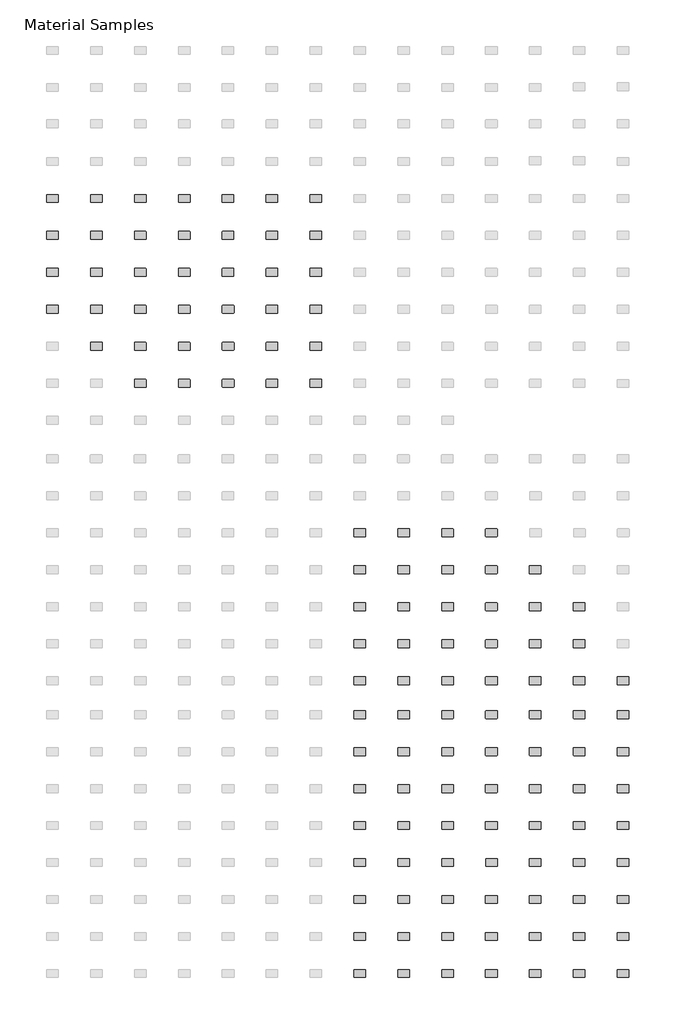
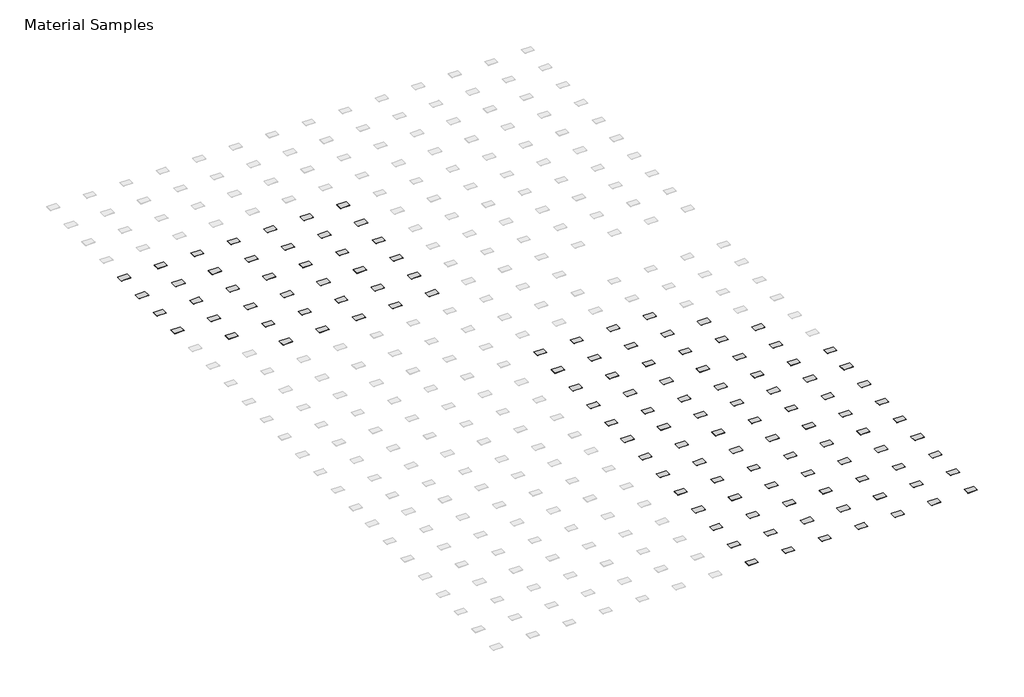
# One storey, part 2 of 3: 123 furniture elements.
"""IFC4 building model written with IfcOpenShell, lengths in millimetres."""

from ifc_helpers import new_model, si_unit, origin, place, context, project, spatial, transform, mapped, element, save
from components import furniture_2008_material_sample3_2x3x1_8_96bf408c

model = new_model("IFC4")

# Units and contexts
model_context = context("Model", 3, world=origin())
ifc_project = project(units=[si_unit("LENGTHUNIT", "METRE", prefix="MILLI")], contexts=[model_context])

# Site, building, storey
site = spatial("IfcSite", under=ifc_project)
building = spatial("IfcBuilding", under=site)
storey = spatial("IfcBuildingStorey", under=building, Name="Material Samples", Elevation=0.0)

# Furniture
placement = place(None, origin())
furniture_2008_material_sample3_2x3x1_8_shape = furniture_2008_material_sample3_2x3x1_8_96bf408c(model_context)
element("IfcFurniture", 1, ObjectType="2008_Material Sample3 : 2x3x1/8", at=placement, inside=storey, context=model_context, shape_type="MappedRepresentation", body=[
    mapped(furniture_2008_material_sample3_2x3x1_8_shape, transform((-41929.8143121, -1028.6275291, 25.4), x_axis=(1.0, 0.0, 0.0), y_axis=(0.0, 1.0, 0.0), z_axis=(0.0, 0.0, 1.0))),
])
element("IfcFurniture", 2, ObjectType="2008_Material Sample3 : 2x3x1/8", at=placement, inside=storey, context=model_context, shape_type="MappedRepresentation", body=[
    mapped(furniture_2008_material_sample3_2x3x1_8_shape, transform((-40482.0057904, -1028.6275291, 25.4), x_axis=(1.0, 0.0, 0.0), y_axis=(0.0, 1.0, 0.0), z_axis=(0.0, 0.0, 1.0))),
])
element("IfcFurniture", 3, ObjectType="2008_Material Sample3 : 2x3x1/8", at=placement, inside=storey, context=model_context, shape_type="MappedRepresentation", body=[
    mapped(furniture_2008_material_sample3_2x3x1_8_shape, transform((-39034.1972688, -1028.6275291, 25.4), x_axis=(1.0, 0.0, 0.0), y_axis=(0.0, 1.0, 0.0), z_axis=(0.0, 0.0, 1.0))),
])
element("IfcFurniture", 4, ObjectType="2008_Material Sample3 : 2x3x1/8", at=placement, inside=storey, context=model_context, shape_type="MappedRepresentation", body=[
    mapped(furniture_2008_material_sample3_2x3x1_8_shape, transform((-37586.3887471, -1028.6275291, 25.4), x_axis=(1.0, 0.0, 0.0), y_axis=(0.0, 1.0, 0.0), z_axis=(0.0, 0.0, 1.0))),
])
element("IfcFurniture", 5, ObjectType="2008_Material Sample3 : 2x3x1/8", at=placement, inside=storey, context=model_context, shape_type="MappedRepresentation", body=[
    mapped(furniture_2008_material_sample3_2x3x1_8_shape, transform((-36138.6910069, -1028.6275291, 25.4), x_axis=(1.0, 0.0, 0.0), y_axis=(0.0, 1.0, 0.0), z_axis=(0.0, 0.0, 1.0))),
])
element("IfcFurniture", 6, ObjectType="2008_Material Sample3 : 2x3x1/8", at=placement, inside=storey, context=model_context, shape_type="MappedRepresentation", body=[
    mapped(furniture_2008_material_sample3_2x3x1_8_shape, transform((-34690.7717038, -1028.6275291, 25.4), x_axis=(1.0, 0.0, 0.0), y_axis=(0.0, 1.0, 0.0), z_axis=(0.0, 0.0, 1.0))),
])
element("IfcFurniture", 7, ObjectType="2008_Material Sample3 : 2x3x1/8", at=placement, inside=storey, context=model_context, shape_type="MappedRepresentation", body=[
    mapped(furniture_2008_material_sample3_2x3x1_8_shape, transform((-33242.9631822, -1028.6275291, 25.4), x_axis=(1.0, 0.0, 0.0), y_axis=(0.0, 1.0, 0.0), z_axis=(0.0, 0.0, 1.0))),
])
element("IfcFurniture", 8, ObjectType="2008_Material Sample3 : 2x3x1/8", at=placement, inside=storey, context=model_context, shape_type="MappedRepresentation", body=[
    mapped(furniture_2008_material_sample3_2x3x1_8_shape, transform((-41929.8143121, -2247.8275291, 25.4), x_axis=(1.0, 0.0, 0.0), y_axis=(0.0, 1.0, 0.0), z_axis=(0.0, 0.0, 1.0))),
])
element("IfcFurniture", 9, ObjectType="2008_Material Sample3 : 2x3x1/8", at=placement, inside=storey, context=model_context, shape_type="MappedRepresentation", body=[
    mapped(furniture_2008_material_sample3_2x3x1_8_shape, transform((-40482.0057904, -2247.8275291, 25.4), x_axis=(1.0, 0.0, 0.0), y_axis=(0.0, 1.0, 0.0), z_axis=(0.0, 0.0, 1.0))),
])
element("IfcFurniture", 10, ObjectType="2008_Material Sample3 : 2x3x1/8", at=placement, inside=storey, context=model_context, shape_type="MappedRepresentation", body=[
    mapped(furniture_2008_material_sample3_2x3x1_8_shape, transform((-39034.1972688, -2247.8275291, 25.4), x_axis=(1.0, 0.0, 0.0), y_axis=(0.0, 1.0, 0.0), z_axis=(0.0, 0.0, 1.0))),
])
element("IfcFurniture", 11, ObjectType="2008_Material Sample3 : 2x3x1/8", at=placement, inside=storey, context=model_context, shape_type="MappedRepresentation", body=[
    mapped(furniture_2008_material_sample3_2x3x1_8_shape, transform((-37586.3887471, -2247.8275291, 25.4), x_axis=(1.0, 0.0, 0.0), y_axis=(0.0, 1.0, 0.0), z_axis=(0.0, 0.0, 1.0))),
])
element("IfcFurniture", 12, ObjectType="2008_Material Sample3 : 2x3x1/8", at=placement, inside=storey, context=model_context, shape_type="MappedRepresentation", body=[
    mapped(furniture_2008_material_sample3_2x3x1_8_shape, transform((-36138.6910069, -2247.8275291, 25.4), x_axis=(1.0, 0.0, 0.0), y_axis=(0.0, 1.0, 0.0), z_axis=(0.0, 0.0, 1.0))),
])
element("IfcFurniture", 13, ObjectType="2008_Material Sample3 : 2x3x1/8", at=placement, inside=storey, context=model_context, shape_type="MappedRepresentation", body=[
    mapped(furniture_2008_material_sample3_2x3x1_8_shape, transform((-34690.7717038, -2247.8275291, 25.4), x_axis=(1.0, 0.0, 0.0), y_axis=(0.0, 1.0, 0.0), z_axis=(0.0, 0.0, 1.0))),
])
element("IfcFurniture", 14, ObjectType="2008_Material Sample3 : 2x3x1/8", at=placement, inside=storey, context=model_context, shape_type="MappedRepresentation", body=[
    mapped(furniture_2008_material_sample3_2x3x1_8_shape, transform((-33242.9631822, -2247.8275291, 25.4), x_axis=(1.0, 0.0, 0.0), y_axis=(0.0, 1.0, 0.0), z_axis=(0.0, 0.0, 1.0))),
])
element("IfcFurniture", 15, ObjectType="2008_Material Sample3 : 2x3x1/8", at=placement, inside=storey, context=model_context, shape_type="MappedRepresentation", body=[
    mapped(furniture_2008_material_sample3_2x3x1_8_shape, transform((-41929.9250935, -3467.0275291, 25.4), x_axis=(1.0, 0.0, 0.0), y_axis=(0.0, 1.0, 0.0), z_axis=(0.0, 0.0, 1.0))),
])
element("IfcFurniture", 16, ObjectType="2008_Material Sample3 : 2x3x1/8", at=placement, inside=storey, context=model_context, shape_type="MappedRepresentation", body=[
    mapped(furniture_2008_material_sample3_2x3x1_8_shape, transform((-40482.0057904, -3467.0275291, 25.4), x_axis=(1.0, 0.0, 0.0), y_axis=(0.0, 1.0, 0.0), z_axis=(0.0, 0.0, 1.0))),
])
element("IfcFurniture", 17, ObjectType="2008_Material Sample3 : 2x3x1/8", at=placement, inside=storey, context=model_context, shape_type="MappedRepresentation", body=[
    mapped(furniture_2008_material_sample3_2x3x1_8_shape, transform((-39034.1972688, -3467.0275291, 25.4), x_axis=(1.0, 0.0, 0.0), y_axis=(0.0, 1.0, 0.0), z_axis=(0.0, 0.0, 1.0))),
])
element("IfcFurniture", 18, ObjectType="2008_Material Sample3 : 2x3x1/8", at=placement, inside=storey, context=model_context, shape_type="MappedRepresentation", body=[
    mapped(furniture_2008_material_sample3_2x3x1_8_shape, transform((-37586.3887471, -3467.0275291, 25.4), x_axis=(1.0, 0.0, 0.0), y_axis=(0.0, 1.0, 0.0), z_axis=(0.0, 0.0, 1.0))),
])
element("IfcFurniture", 19, ObjectType="2008_Material Sample3 : 2x3x1/8", at=placement, inside=storey, context=model_context, shape_type="MappedRepresentation", body=[
    mapped(furniture_2008_material_sample3_2x3x1_8_shape, transform((-36138.6910069, -3467.0275291, 25.4), x_axis=(1.0, 0.0, 0.0), y_axis=(0.0, 1.0, 0.0), z_axis=(0.0, 0.0, 1.0))),
])
element("IfcFurniture", 20, ObjectType="2008_Material Sample3 : 2x3x1/8", at=placement, inside=storey, context=model_context, shape_type="MappedRepresentation", body=[
    mapped(furniture_2008_material_sample3_2x3x1_8_shape, transform((-34690.7717038, -3467.0275291, 25.4), x_axis=(1.0, 0.0, 0.0), y_axis=(0.0, 1.0, 0.0), z_axis=(0.0, 0.0, 1.0))),
])
element("IfcFurniture", 21, ObjectType="2008_Material Sample3 : 2x3x1/8", at=placement, inside=storey, context=model_context, shape_type="MappedRepresentation", body=[
    mapped(furniture_2008_material_sample3_2x3x1_8_shape, transform((-33242.9631822, -3467.0275291, 25.4), x_axis=(1.0, 0.0, 0.0), y_axis=(0.0, 1.0, 0.0), z_axis=(0.0, 0.0, 1.0))),
])
element("IfcFurniture", 22, ObjectType="2008_Material Sample3 : 2x3x1/8", at=placement, inside=storey, context=model_context, shape_type="MappedRepresentation", body=[
    mapped(furniture_2008_material_sample3_2x3x1_8_shape, transform((-41929.5927492, -4686.2275291, 25.4), x_axis=(1.0, 0.0, 0.0), y_axis=(0.0, 1.0, 0.0), z_axis=(0.0, 0.0, 1.0))),
])
element("IfcFurniture", 23, ObjectType="2008_Material Sample3 : 2x3x1/8", at=placement, inside=storey, context=model_context, shape_type="MappedRepresentation", body=[
    mapped(furniture_2008_material_sample3_2x3x1_8_shape, transform((-40481.895009, -4686.2275291, 25.4), x_axis=(1.0, 0.0, 0.0), y_axis=(0.0, 1.0, 0.0), z_axis=(0.0, 0.0, 1.0))),
])
element("IfcFurniture", 24, ObjectType="2008_Material Sample3 : 2x3x1/8", at=placement, inside=storey, context=model_context, shape_type="MappedRepresentation", body=[
    mapped(furniture_2008_material_sample3_2x3x1_8_shape, transform((-39034.0864873, -4686.2275291, 25.4), x_axis=(1.0, 0.0, 0.0), y_axis=(0.0, 1.0, 0.0), z_axis=(0.0, 0.0, 1.0))),
])
element("IfcFurniture", 25, ObjectType="2008_Material Sample3 : 2x3x1/8", at=placement, inside=storey, context=model_context, shape_type="MappedRepresentation", body=[
    mapped(furniture_2008_material_sample3_2x3x1_8_shape, transform((-37586.2779657, -4686.2275291, 25.4), x_axis=(1.0, 0.0, 0.0), y_axis=(0.0, 1.0, 0.0), z_axis=(0.0, 0.0, 1.0))),
])
element("IfcFurniture", 26, ObjectType="2008_Material Sample3 : 2x3x1/8", at=placement, inside=storey, context=model_context, shape_type="MappedRepresentation", body=[
    mapped(furniture_2008_material_sample3_2x3x1_8_shape, transform((-36138.5802255, -4686.2275291, 25.4), x_axis=(1.0, 0.0, 0.0), y_axis=(0.0, 1.0, 0.0), z_axis=(0.0, 0.0, 1.0))),
])
element("IfcFurniture", 27, ObjectType="2008_Material Sample3 : 2x3x1/8", at=placement, inside=storey, context=model_context, shape_type="MappedRepresentation", body=[
    mapped(furniture_2008_material_sample3_2x3x1_8_shape, transform((-34690.6609224, -4686.2275291, 25.4), x_axis=(1.0, 0.0, 0.0), y_axis=(0.0, 1.0, 0.0), z_axis=(0.0, 0.0, 1.0))),
])
element("IfcFurniture", 28, ObjectType="2008_Material Sample3 : 2x3x1/8", at=placement, inside=storey, context=model_context, shape_type="MappedRepresentation", body=[
    mapped(furniture_2008_material_sample3_2x3x1_8_shape, transform((-33242.8524007, -4686.2275291, 25.4), x_axis=(1.0, 0.0, 0.0), y_axis=(0.0, 1.0, 0.0), z_axis=(0.0, 0.0, 1.0))),
])
element("IfcFurniture", 29, ObjectType="2008_Material Sample3 : 2x3x1/8", at=placement, inside=storey, context=model_context, shape_type="MappedRepresentation", body=[
    mapped(furniture_2008_material_sample3_2x3x1_8_shape, transform((-40481.895009, -5905.4275291, 25.4), x_axis=(1.0, 0.0, 0.0), y_axis=(0.0, 1.0, 0.0), z_axis=(0.0, 0.0, 1.0))),
])
element("IfcFurniture", 30, ObjectType="2008_Material Sample3 : 2x3x1/8", at=placement, inside=storey, context=model_context, shape_type="MappedRepresentation", body=[
    mapped(furniture_2008_material_sample3_2x3x1_8_shape, transform((-39034.0864873, -5905.4275291, 25.4), x_axis=(1.0, 0.0, 0.0), y_axis=(0.0, 1.0, 0.0), z_axis=(0.0, 0.0, 1.0))),
])
element("IfcFurniture", 31, ObjectType="2008_Material Sample3 : 2x3x1/8", at=placement, inside=storey, context=model_context, shape_type="MappedRepresentation", body=[
    mapped(furniture_2008_material_sample3_2x3x1_8_shape, transform((-37586.2779657, -5905.4275291, 25.4), x_axis=(1.0, 0.0, 0.0), y_axis=(0.0, 1.0, 0.0), z_axis=(0.0, 0.0, 1.0))),
])
element("IfcFurniture", 32, ObjectType="2008_Material Sample3 : 2x3x1/8", at=placement, inside=storey, context=model_context, shape_type="MappedRepresentation", body=[
    mapped(furniture_2008_material_sample3_2x3x1_8_shape, transform((-36138.5802255, -5905.4275291, 25.4), x_axis=(1.0, 0.0, 0.0), y_axis=(0.0, 1.0, 0.0), z_axis=(0.0, 0.0, 1.0))),
])
element("IfcFurniture", 33, ObjectType="2008_Material Sample3 : 2x3x1/8", at=placement, inside=storey, context=model_context, shape_type="MappedRepresentation", body=[
    mapped(furniture_2008_material_sample3_2x3x1_8_shape, transform((-34690.6609224, -5905.4275291, 25.4), x_axis=(1.0, 0.0, 0.0), y_axis=(0.0, 1.0, 0.0), z_axis=(0.0, 0.0, 1.0))),
])
element("IfcFurniture", 34, ObjectType="2008_Material Sample3 : 2x3x1/8", at=placement, inside=storey, context=model_context, shape_type="MappedRepresentation", body=[
    mapped(furniture_2008_material_sample3_2x3x1_8_shape, transform((-33242.8524007, -5905.4275291, 25.4), x_axis=(1.0, 0.0, 0.0), y_axis=(0.0, 1.0, 0.0), z_axis=(0.0, 0.0, 1.0))),
])
element("IfcFurniture", 35, ObjectType="2008_Material Sample3 : 2x3x1/8", at=placement, inside=storey, context=model_context, shape_type="MappedRepresentation", body=[
    mapped(furniture_2008_material_sample3_2x3x1_8_shape, transform((-39034.0864873, -7124.6275291, 25.4), x_axis=(1.0, 0.0, 0.0), y_axis=(0.0, 1.0, 0.0), z_axis=(0.0, 0.0, 1.0))),
])
element("IfcFurniture", 36, ObjectType="2008_Material Sample3 : 2x3x1/8", at=placement, inside=storey, context=model_context, shape_type="MappedRepresentation", body=[
    mapped(furniture_2008_material_sample3_2x3x1_8_shape, transform((-37586.2779657, -7124.6275291, 25.4), x_axis=(1.0, 0.0, 0.0), y_axis=(0.0, 1.0, 0.0), z_axis=(0.0, 0.0, 1.0))),
])
element("IfcFurniture", 37, ObjectType="2008_Material Sample3 : 2x3x1/8", at=placement, inside=storey, context=model_context, shape_type="MappedRepresentation", body=[
    mapped(furniture_2008_material_sample3_2x3x1_8_shape, transform((-36138.5802255, -7124.6275291, 25.4), x_axis=(1.0, 0.0, 0.0), y_axis=(0.0, 1.0, 0.0), z_axis=(0.0, 0.0, 1.0))),
])
element("IfcFurniture", 38, ObjectType="2008_Material Sample3 : 2x3x1/8", at=placement, inside=storey, context=model_context, shape_type="MappedRepresentation", body=[
    mapped(furniture_2008_material_sample3_2x3x1_8_shape, transform((-34690.6609224, -7124.6275291, 25.4), x_axis=(1.0, 0.0, 0.0), y_axis=(0.0, 1.0, 0.0), z_axis=(0.0, 0.0, 1.0))),
])
element("IfcFurniture", 39, ObjectType="2008_Material Sample3 : 2x3x1/8", at=placement, inside=storey, context=model_context, shape_type="MappedRepresentation", body=[
    mapped(furniture_2008_material_sample3_2x3x1_8_shape, transform((-33242.8524007, -7124.6275291, 25.4), x_axis=(1.0, 0.0, 0.0), y_axis=(0.0, 1.0, 0.0), z_axis=(0.0, 0.0, 1.0))),
])
element("IfcFurniture", 40, ObjectType="2008_Material Sample3 : 2x3x1/8", at=placement, inside=storey, context=model_context, shape_type="MappedRepresentation", body=[
    mapped(furniture_2008_material_sample3_2x3x1_8_shape, transform((-31795.2143121, -12052.2275291, 25.4), x_axis=(1.0, 0.0, 0.0), y_axis=(0.0, 1.0, 0.0), z_axis=(0.0, 0.0, 1.0))),
])
element("IfcFurniture", 41, ObjectType="2008_Material Sample3 : 2x3x1/8", at=placement, inside=storey, context=model_context, shape_type="MappedRepresentation", body=[
    mapped(furniture_2008_material_sample3_2x3x1_8_shape, transform((-30347.4143121, -12052.2275291, 25.4), x_axis=(1.0, 0.0, 0.0), y_axis=(0.0, 1.0, 0.0), z_axis=(0.0, 0.0, 1.0))),
])
element("IfcFurniture", 42, ObjectType="2008_Material Sample3 : 2x3x1/8", at=placement, inside=storey, context=model_context, shape_type="MappedRepresentation", body=[
    mapped(furniture_2008_material_sample3_2x3x1_8_shape, transform((-28899.6143121, -12052.2275291, 25.4), x_axis=(1.0, 0.0, 0.0), y_axis=(0.0, 1.0, 0.0), z_axis=(0.0, 0.0, 1.0))),
])
element("IfcFurniture", 43, ObjectType="2008_Material Sample3 : 2x3x1/8", at=placement, inside=storey, context=model_context, shape_type="MappedRepresentation", body=[
    mapped(furniture_2008_material_sample3_2x3x1_8_shape, transform((-31795.2143121, -13271.4275291, 25.4), x_axis=(1.0, 0.0, 0.0), y_axis=(0.0, 1.0, 0.0), z_axis=(0.0, 0.0, 1.0))),
])
element("IfcFurniture", 44, ObjectType="2008_Material Sample3 : 2x3x1/8", at=placement, inside=storey, context=model_context, shape_type="MappedRepresentation", body=[
    mapped(furniture_2008_material_sample3_2x3x1_8_shape, transform((-30347.4143121, -13271.4275291, 25.4), x_axis=(1.0, 0.0, 0.0), y_axis=(0.0, 1.0, 0.0), z_axis=(0.0, 0.0, 1.0))),
])
element("IfcFurniture", 45, ObjectType="2008_Material Sample3 : 2x3x1/8", at=placement, inside=storey, context=model_context, shape_type="MappedRepresentation", body=[
    mapped(furniture_2008_material_sample3_2x3x1_8_shape, transform((-28899.6143121, -13271.4275291, 25.4), x_axis=(1.0, 0.0, 0.0), y_axis=(0.0, 1.0, 0.0), z_axis=(0.0, 0.0, 1.0))),
])
element("IfcFurniture", 46, ObjectType="2008_Material Sample3 : 2x3x1/8", at=placement, inside=storey, context=model_context, shape_type="MappedRepresentation", body=[
    mapped(furniture_2008_material_sample3_2x3x1_8_shape, transform((-27451.8143121, -13271.4275291, 25.4), x_axis=(1.0, 0.0, 0.0), y_axis=(0.0, 1.0, 0.0), z_axis=(0.0, 0.0, 1.0))),
])
element("IfcFurniture", 47, ObjectType="2008_Material Sample3 : 2x3x1/8", at=placement, inside=storey, context=model_context, shape_type="MappedRepresentation", body=[
    mapped(furniture_2008_material_sample3_2x3x1_8_shape, transform((-26004.0143121, -13271.4275291, 25.4), x_axis=(1.0, 0.0, 0.0), y_axis=(0.0, 1.0, 0.0), z_axis=(0.0, 0.0, 1.0))),
])
element("IfcFurniture", 48, ObjectType="2008_Material Sample3 : 2x3x1/8", at=placement, inside=storey, context=model_context, shape_type="MappedRepresentation", body=[
    mapped(furniture_2008_material_sample3_2x3x1_8_shape, transform((-31795.2143121, -14490.6275291, 25.4), x_axis=(1.0, 0.0, 0.0), y_axis=(0.0, 1.0, 0.0), z_axis=(0.0, 0.0, 1.0))),
])
element("IfcFurniture", 49, ObjectType="2008_Material Sample3 : 2x3x1/8", at=placement, inside=storey, context=model_context, shape_type="MappedRepresentation", body=[
    mapped(furniture_2008_material_sample3_2x3x1_8_shape, transform((-30347.4143121, -14490.6275291, 25.4), x_axis=(1.0, 0.0, 0.0), y_axis=(0.0, 1.0, 0.0), z_axis=(0.0, 0.0, 1.0))),
])
element("IfcFurniture", 50, ObjectType="2008_Material Sample3 : 2x3x1/8", at=placement, inside=storey, context=model_context, shape_type="MappedRepresentation", body=[
    mapped(furniture_2008_material_sample3_2x3x1_8_shape, transform((-28899.6143121, -14490.6275291, 25.4), x_axis=(1.0, 0.0, 0.0), y_axis=(0.0, 1.0, 0.0), z_axis=(0.0, 0.0, 1.0))),
])
element("IfcFurniture", 51, ObjectType="2008_Material Sample3 : 2x3x1/8", at=placement, inside=storey, context=model_context, shape_type="MappedRepresentation", body=[
    mapped(furniture_2008_material_sample3_2x3x1_8_shape, transform((-26004.0143121, -14490.6275291, 25.4), x_axis=(1.0, 0.0, 0.0), y_axis=(0.0, 1.0, 0.0), z_axis=(0.0, 0.0, 1.0))),
])
element("IfcFurniture", 52, ObjectType="2008_Material Sample3 : 2x3x1/8", at=placement, inside=storey, context=model_context, shape_type="MappedRepresentation", body=[
    mapped(furniture_2008_material_sample3_2x3x1_8_shape, transform((-24556.2143121, -14490.6275291, 25.4), x_axis=(1.0, 0.0, 0.0), y_axis=(0.0, 1.0, 0.0), z_axis=(0.0, 0.0, 1.0))),
])
element("IfcFurniture", 53, ObjectType="2008_Material Sample3 : 2x3x1/8", at=placement, inside=storey, context=model_context, shape_type="MappedRepresentation", body=[
    mapped(furniture_2008_material_sample3_2x3x1_8_shape, transform((-31795.2143121, -15709.8275291, 25.4), x_axis=(1.0, 0.0, 0.0), y_axis=(0.0, 1.0, 0.0), z_axis=(0.0, 0.0, 1.0))),
])
element("IfcFurniture", 54, ObjectType="2008_Material Sample3 : 2x3x1/8", at=placement, inside=storey, context=model_context, shape_type="MappedRepresentation", body=[
    mapped(furniture_2008_material_sample3_2x3x1_8_shape, transform((-30347.4143121, -15709.8275291, 25.4), x_axis=(1.0, 0.0, 0.0), y_axis=(0.0, 1.0, 0.0), z_axis=(0.0, 0.0, 1.0))),
])
element("IfcFurniture", 55, ObjectType="2008_Material Sample3 : 2x3x1/8", at=placement, inside=storey, context=model_context, shape_type="MappedRepresentation", body=[
    mapped(furniture_2008_material_sample3_2x3x1_8_shape, transform((-28899.6143121, -15709.8275291, 25.4), x_axis=(1.0, 0.0, 0.0), y_axis=(0.0, 1.0, 0.0), z_axis=(0.0, 0.0, 1.0))),
])
element("IfcFurniture", 56, ObjectType="2008_Material Sample3 : 2x3x1/8", at=placement, inside=storey, context=model_context, shape_type="MappedRepresentation", body=[
    mapped(furniture_2008_material_sample3_2x3x1_8_shape, transform((-27451.8143121, -15709.8275291, 25.4), x_axis=(1.0, 0.0, 0.0), y_axis=(0.0, 1.0, 0.0), z_axis=(0.0, 0.0, 1.0))),
])
element("IfcFurniture", 57, ObjectType="2008_Material Sample3 : 2x3x1/8", at=placement, inside=storey, context=model_context, shape_type="MappedRepresentation", body=[
    mapped(furniture_2008_material_sample3_2x3x1_8_shape, transform((-26004.0143121, -15709.8275291, 25.4), x_axis=(1.0, 0.0, 0.0), y_axis=(0.0, 1.0, 0.0), z_axis=(0.0, 0.0, 1.0))),
])
element("IfcFurniture", 58, ObjectType="2008_Material Sample3 : 2x3x1/8", at=placement, inside=storey, context=model_context, shape_type="MappedRepresentation", body=[
    mapped(furniture_2008_material_sample3_2x3x1_8_shape, transform((-24556.2143121, -15709.8275291, 25.4), x_axis=(1.0, 0.0, 0.0), y_axis=(0.0, 1.0, 0.0), z_axis=(0.0, 0.0, 1.0))),
])
element("IfcFurniture", 59, ObjectType="2008_Material Sample3 : 2x3x1/8", at=placement, inside=storey, context=model_context, shape_type="MappedRepresentation", body=[
    mapped(furniture_2008_material_sample3_2x3x1_8_shape, transform((-31795.1035306, -16929.0275291, 25.4), x_axis=(1.0, 0.0, 0.0), y_axis=(0.0, 1.0, 0.0), z_axis=(0.0, 0.0, 1.0))),
])
element("IfcFurniture", 60, ObjectType="2008_Material Sample3 : 2x3x1/8", at=placement, inside=storey, context=model_context, shape_type="MappedRepresentation", body=[
    mapped(furniture_2008_material_sample3_2x3x1_8_shape, transform((-30347.3035306, -16929.0275291, 25.4), x_axis=(1.0, 0.0, 0.0), y_axis=(0.0, 1.0, 0.0), z_axis=(0.0, 0.0, 1.0))),
])
element("IfcFurniture", 61, ObjectType="2008_Material Sample3 : 2x3x1/8", at=placement, inside=storey, context=model_context, shape_type="MappedRepresentation", body=[
    mapped(furniture_2008_material_sample3_2x3x1_8_shape, transform((-28899.5035306, -16929.0275291, 25.4), x_axis=(1.0, 0.0, 0.0), y_axis=(0.0, 1.0, 0.0), z_axis=(0.0, 0.0, 1.0))),
])
element("IfcFurniture", 62, ObjectType="2008_Material Sample3 : 2x3x1/8", at=placement, inside=storey, context=model_context, shape_type="MappedRepresentation", body=[
    mapped(furniture_2008_material_sample3_2x3x1_8_shape, transform((-27451.7035306, -16929.0275291, 25.4), x_axis=(1.0, 0.0, 0.0), y_axis=(0.0, 1.0, 0.0), z_axis=(0.0, 0.0, 1.0))),
])
element("IfcFurniture", 63, ObjectType="2008_Material Sample3 : 2x3x1/8", at=placement, inside=storey, context=model_context, shape_type="MappedRepresentation", body=[
    mapped(furniture_2008_material_sample3_2x3x1_8_shape, transform((-26003.9035306, -16929.0275291, 25.4), x_axis=(1.0, 0.0, 0.0), y_axis=(0.0, 1.0, 0.0), z_axis=(0.0, 0.0, 1.0))),
])
element("IfcFurniture", 64, ObjectType="2008_Material Sample3 : 2x3x1/8", at=placement, inside=storey, context=model_context, shape_type="MappedRepresentation", body=[
    mapped(furniture_2008_material_sample3_2x3x1_8_shape, transform((-24556.1035306, -16929.0275291, 25.4), x_axis=(1.0, 0.0, 0.0), y_axis=(0.0, 1.0, 0.0), z_axis=(0.0, 0.0, 1.0))),
])
element("IfcFurniture", 65, ObjectType="2008_Material Sample3 : 2x3x1/8", at=placement, inside=storey, context=model_context, shape_type="MappedRepresentation", body=[
    mapped(furniture_2008_material_sample3_2x3x1_8_shape, transform((-23108.3035306, -16929.0275291, 25.4), x_axis=(1.0, 0.0, 0.0), y_axis=(0.0, 1.0, 0.0), z_axis=(0.0, 0.0, 1.0))),
])
element("IfcFurniture", 66, ObjectType="2008_Material Sample3 : 2x3x1/8", at=placement, inside=storey, context=model_context, shape_type="MappedRepresentation", body=[
    mapped(furniture_2008_material_sample3_2x3x1_8_shape, transform((-27451.8143121, -12052.2275291, 25.4), x_axis=(1.0, 0.0, 0.0), y_axis=(0.0, 1.0, 0.0), z_axis=(0.0, 0.0, 1.0))),
])
element("IfcFurniture", 67, ObjectType="2008_Material Sample3 : 2x3x1/8", at=placement, inside=storey, context=model_context, shape_type="MappedRepresentation", body=[
    mapped(furniture_2008_material_sample3_2x3x1_8_shape, transform((-27451.8143121, -14490.6275291, 25.4), x_axis=(1.0, 0.0, 0.0), y_axis=(0.0, 1.0, 0.0), z_axis=(0.0, 0.0, 1.0))),
])
element("IfcFurniture", 68, ObjectType="2008_Material Sample4 : 2x3x1/8", at=placement, inside=storey, context=model_context, shape_type="MappedRepresentation", body=[
    mapped(furniture_2008_material_sample3_2x3x1_8_shape, transform((-31795.1035306, -18046.6275291, 25.4), x_axis=(1.0, 0.0, 0.0), y_axis=(0.0, 1.0, 0.0), z_axis=(0.0, 0.0, 1.0))),
])
element("IfcFurniture", 69, ObjectType="2008_Material Sample4 : 2x3x1/8", at=placement, inside=storey, context=model_context, shape_type="MappedRepresentation", body=[
    mapped(furniture_2008_material_sample3_2x3x1_8_shape, transform((-30347.3035306, -18046.6275291, 25.4), x_axis=(1.0, 0.0, 0.0), y_axis=(0.0, 1.0, 0.0), z_axis=(0.0, 0.0, 1.0))),
])
element("IfcFurniture", 70, ObjectType="2008_Material Sample4 : 2x3x1/8", at=placement, inside=storey, context=model_context, shape_type="MappedRepresentation", body=[
    mapped(furniture_2008_material_sample3_2x3x1_8_shape, transform((-28899.5035306, -18046.6275291, 25.4), x_axis=(1.0, 0.0, 0.0), y_axis=(0.0, 1.0, 0.0), z_axis=(0.0, 0.0, 1.0))),
])
element("IfcFurniture", 71, ObjectType="2008_Material Sample4 : 2x3x1/8", at=placement, inside=storey, context=model_context, shape_type="MappedRepresentation", body=[
    mapped(furniture_2008_material_sample3_2x3x1_8_shape, transform((-27451.7035306, -18046.6275291, 25.4), x_axis=(1.0, 0.0, 0.0), y_axis=(0.0, 1.0, 0.0), z_axis=(0.0, 0.0, 1.0))),
])
element("IfcFurniture", 72, ObjectType="2008_Material Sample4 : 2x3x1/8", at=placement, inside=storey, context=model_context, shape_type="MappedRepresentation", body=[
    mapped(furniture_2008_material_sample3_2x3x1_8_shape, transform((-26003.9035306, -18046.6275291, 25.4), x_axis=(1.0, 0.0, 0.0), y_axis=(0.0, 1.0, 0.0), z_axis=(0.0, 0.0, 1.0))),
])
element("IfcFurniture", 73, ObjectType="2008_Material Sample4 : 2x3x1/8", at=placement, inside=storey, context=model_context, shape_type="MappedRepresentation", body=[
    mapped(furniture_2008_material_sample3_2x3x1_8_shape, transform((-24556.1035306, -18046.6275291, 25.4), x_axis=(1.0, 0.0, 0.0), y_axis=(0.0, 1.0, 0.0), z_axis=(0.0, 0.0, 1.0))),
])
element("IfcFurniture", 74, ObjectType="2008_Material Sample4 : 2x3x1/8", at=placement, inside=storey, context=model_context, shape_type="MappedRepresentation", body=[
    mapped(furniture_2008_material_sample3_2x3x1_8_shape, transform((-23108.3035306, -18046.6275291, 25.4), x_axis=(1.0, 0.0, 0.0), y_axis=(0.0, 1.0, 0.0), z_axis=(0.0, 0.0, 1.0))),
])
element("IfcFurniture", 75, ObjectType="2008_Material Sample4 : 2x3x1/8", at=placement, inside=storey, context=model_context, shape_type="MappedRepresentation", body=[
    mapped(furniture_2008_material_sample3_2x3x1_8_shape, transform((-31795.1035306, -19265.8275291, 25.4), x_axis=(1.0, 0.0, 0.0), y_axis=(0.0, 1.0, 0.0), z_axis=(0.0, 0.0, 1.0))),
])
element("IfcFurniture", 76, ObjectType="2008_Material Sample4 : 2x3x1/8", at=placement, inside=storey, context=model_context, shape_type="MappedRepresentation", body=[
    mapped(furniture_2008_material_sample3_2x3x1_8_shape, transform((-30347.3035306, -19265.8275291, 25.4), x_axis=(1.0, 0.0, 0.0), y_axis=(0.0, 1.0, 0.0), z_axis=(0.0, 0.0, 1.0))),
])
element("IfcFurniture", 77, ObjectType="2008_Material Sample4 : 2x3x1/8", at=placement, inside=storey, context=model_context, shape_type="MappedRepresentation", body=[
    mapped(furniture_2008_material_sample3_2x3x1_8_shape, transform((-28899.5035306, -19265.8275291, 25.4), x_axis=(1.0, 0.0, 0.0), y_axis=(0.0, 1.0, 0.0), z_axis=(0.0, 0.0, 1.0))),
])
element("IfcFurniture", 78, ObjectType="2008_Material Sample4 : 2x3x1/8", at=placement, inside=storey, context=model_context, shape_type="MappedRepresentation", body=[
    mapped(furniture_2008_material_sample3_2x3x1_8_shape, transform((-27451.7035306, -19265.8275291, 25.4), x_axis=(1.0, 0.0, 0.0), y_axis=(0.0, 1.0, 0.0), z_axis=(0.0, 0.0, 1.0))),
])
element("IfcFurniture", 79, ObjectType="2008_Material Sample4 : 2x3x1/8", at=placement, inside=storey, context=model_context, shape_type="MappedRepresentation", body=[
    mapped(furniture_2008_material_sample3_2x3x1_8_shape, transform((-26003.9035306, -19265.8275291, 25.4), x_axis=(1.0, 0.0, 0.0), y_axis=(0.0, 1.0, 0.0), z_axis=(0.0, 0.0, 1.0))),
])
element("IfcFurniture", 80, ObjectType="2008_Material Sample4 : 2x3x1/8", at=placement, inside=storey, context=model_context, shape_type="MappedRepresentation", body=[
    mapped(furniture_2008_material_sample3_2x3x1_8_shape, transform((-24556.1035306, -19265.8275291, 25.4), x_axis=(1.0, 0.0, 0.0), y_axis=(0.0, 1.0, 0.0), z_axis=(0.0, 0.0, 1.0))),
])
element("IfcFurniture", 81, ObjectType="2008_Material Sample4 : 2x3x1/8", at=placement, inside=storey, context=model_context, shape_type="MappedRepresentation", body=[
    mapped(furniture_2008_material_sample3_2x3x1_8_shape, transform((-23108.3035306, -19265.8275291, 25.4), x_axis=(1.0, 0.0, 0.0), y_axis=(0.0, 1.0, 0.0), z_axis=(0.0, 0.0, 1.0))),
])
element("IfcFurniture", 82, ObjectType="2008_Material Sample4 : 2x3x1/8", at=placement, inside=storey, context=model_context, shape_type="MappedRepresentation", body=[
    mapped(furniture_2008_material_sample3_2x3x1_8_shape, transform((-31795.1035306, -20485.0275291, 25.4), x_axis=(1.0, 0.0, 0.0), y_axis=(0.0, 1.0, 0.0), z_axis=(0.0, 0.0, 1.0))),
])
element("IfcFurniture", 83, ObjectType="2008_Material Sample4 : 2x3x1/8", at=placement, inside=storey, context=model_context, shape_type="MappedRepresentation", body=[
    mapped(furniture_2008_material_sample3_2x3x1_8_shape, transform((-30347.3035306, -20485.0275291, 25.4), x_axis=(1.0, 0.0, 0.0), y_axis=(0.0, 1.0, 0.0), z_axis=(0.0, 0.0, 1.0))),
])
element("IfcFurniture", 84, ObjectType="2008_Material Sample4 : 2x3x1/8", at=placement, inside=storey, context=model_context, shape_type="MappedRepresentation", body=[
    mapped(furniture_2008_material_sample3_2x3x1_8_shape, transform((-28899.5035306, -20485.0275291, 25.4), x_axis=(1.0, 0.0, 0.0), y_axis=(0.0, 1.0, 0.0), z_axis=(0.0, 0.0, 1.0))),
])
element("IfcFurniture", 85, ObjectType="2008_Material Sample4 : 2x3x1/8", at=placement, inside=storey, context=model_context, shape_type="MappedRepresentation", body=[
    mapped(furniture_2008_material_sample3_2x3x1_8_shape, transform((-27451.7035306, -20485.0275291, 25.4), x_axis=(1.0, 0.0, 0.0), y_axis=(0.0, 1.0, 0.0), z_axis=(0.0, 0.0, 1.0))),
])
element("IfcFurniture", 86, ObjectType="2008_Material Sample4 : 2x3x1/8", at=placement, inside=storey, context=model_context, shape_type="MappedRepresentation", body=[
    mapped(furniture_2008_material_sample3_2x3x1_8_shape, transform((-26003.9035306, -20485.0275291, 25.4), x_axis=(1.0, 0.0, 0.0), y_axis=(0.0, 1.0, 0.0), z_axis=(0.0, 0.0, 1.0))),
])
element("IfcFurniture", 87, ObjectType="2008_Material Sample4 : 2x3x1/8", at=placement, inside=storey, context=model_context, shape_type="MappedRepresentation", body=[
    mapped(furniture_2008_material_sample3_2x3x1_8_shape, transform((-24556.1035306, -20485.0275291, 25.4), x_axis=(1.0, 0.0, 0.0), y_axis=(0.0, 1.0, 0.0), z_axis=(0.0, 0.0, 1.0))),
])
element("IfcFurniture", 88, ObjectType="2008_Material Sample4 : 2x3x1/8", at=placement, inside=storey, context=model_context, shape_type="MappedRepresentation", body=[
    mapped(furniture_2008_material_sample3_2x3x1_8_shape, transform((-23108.3035306, -20485.0275291, 25.4), x_axis=(1.0, 0.0, 0.0), y_axis=(0.0, 1.0, 0.0), z_axis=(0.0, 0.0, 1.0))),
])
element("IfcFurniture", 89, ObjectType="2008_Material Sample4 : 2x3x1/8", at=placement, inside=storey, context=model_context, shape_type="MappedRepresentation", body=[
    mapped(furniture_2008_material_sample3_2x3x1_8_shape, transform((-31795.1035306, -21704.2275291, 25.4), x_axis=(1.0, 0.0, 0.0), y_axis=(0.0, 1.0, 0.0), z_axis=(0.0, 0.0, 1.0))),
])
element("IfcFurniture", 90, ObjectType="2008_Material Sample4 : 2x3x1/8", at=placement, inside=storey, context=model_context, shape_type="MappedRepresentation", body=[
    mapped(furniture_2008_material_sample3_2x3x1_8_shape, transform((-30347.3035306, -21704.2275291, 25.4), x_axis=(1.0, 0.0, 0.0), y_axis=(0.0, 1.0, 0.0), z_axis=(0.0, 0.0, 1.0))),
])
element("IfcFurniture", 91, ObjectType="2008_Material Sample4 : 2x3x1/8", at=placement, inside=storey, context=model_context, shape_type="MappedRepresentation", body=[
    mapped(furniture_2008_material_sample3_2x3x1_8_shape, transform((-28899.5035306, -21704.2275291, 25.4), x_axis=(1.0, 0.0, 0.0), y_axis=(0.0, 1.0, 0.0), z_axis=(0.0, 0.0, 1.0))),
])
element("IfcFurniture", 92, ObjectType="2008_Material Sample4 : 2x3x1/8", at=placement, inside=storey, context=model_context, shape_type="MappedRepresentation", body=[
    mapped(furniture_2008_material_sample3_2x3x1_8_shape, transform((-27451.7035306, -21704.2275291, 25.4), x_axis=(1.0, 0.0, 0.0), y_axis=(0.0, 1.0, 0.0), z_axis=(0.0, 0.0, 1.0))),
])
element("IfcFurniture", 93, ObjectType="2008_Material Sample4 : 2x3x1/8", at=placement, inside=storey, context=model_context, shape_type="MappedRepresentation", body=[
    mapped(furniture_2008_material_sample3_2x3x1_8_shape, transform((-26003.9035306, -21704.2275291, 25.4), x_axis=(1.0, 0.0, 0.0), y_axis=(0.0, 1.0, 0.0), z_axis=(0.0, 0.0, 1.0))),
])
element("IfcFurniture", 94, ObjectType="2008_Material Sample4 : 2x3x1/8", at=placement, inside=storey, context=model_context, shape_type="MappedRepresentation", body=[
    mapped(furniture_2008_material_sample3_2x3x1_8_shape, transform((-24556.2143121, -21704.2275291, 25.4), x_axis=(1.0, 0.0, 0.0), y_axis=(0.0, 1.0, 0.0), z_axis=(0.0, 0.0, 1.0))),
])
element("IfcFurniture", 95, ObjectType="2008_Material Sample4 : 2x3x1/8", at=placement, inside=storey, context=model_context, shape_type="MappedRepresentation", body=[
    mapped(furniture_2008_material_sample3_2x3x1_8_shape, transform((-23108.4143121, -21704.2275291, 25.4), x_axis=(1.0, 0.0, 0.0), y_axis=(0.0, 1.0, 0.0), z_axis=(0.0, 0.0, 1.0))),
])
element("IfcFurniture", 96, ObjectType="2008_Material Sample4 : 2x3x1/8", at=placement, inside=storey, context=model_context, shape_type="MappedRepresentation", body=[
    mapped(furniture_2008_material_sample3_2x3x1_8_shape, transform((-31794.9927492, -22923.4275291, 25.4), x_axis=(1.0, 0.0, 0.0), y_axis=(0.0, 1.0, 0.0), z_axis=(0.0, 0.0, 1.0))),
])
element("IfcFurniture", 97, ObjectType="2008_Material Sample4 : 2x3x1/8", at=placement, inside=storey, context=model_context, shape_type="MappedRepresentation", body=[
    mapped(furniture_2008_material_sample3_2x3x1_8_shape, transform((-30347.1927492, -22923.4275291, 25.4), x_axis=(1.0, 0.0, 0.0), y_axis=(0.0, 1.0, 0.0), z_axis=(0.0, 0.0, 1.0))),
])
element("IfcFurniture", 98, ObjectType="2008_Material Sample4 : 2x3x1/8", at=placement, inside=storey, context=model_context, shape_type="MappedRepresentation", body=[
    mapped(furniture_2008_material_sample3_2x3x1_8_shape, transform((-28899.3927492, -22923.4275291, 25.4), x_axis=(1.0, 0.0, 0.0), y_axis=(0.0, 1.0, 0.0), z_axis=(0.0, 0.0, 1.0))),
])
element("IfcFurniture", 99, ObjectType="2008_Material Sample4 : 2x3x1/8", at=placement, inside=storey, context=model_context, shape_type="MappedRepresentation", body=[
    mapped(furniture_2008_material_sample3_2x3x1_8_shape, transform((-27451.5927492, -22923.4275291, 25.4), x_axis=(1.0, 0.0, 0.0), y_axis=(0.0, 1.0, 0.0), z_axis=(0.0, 0.0, 1.0))),
])
element("IfcFurniture", 100, ObjectType="2008_Material Sample4 : 2x3x1/8", at=placement, inside=storey, context=model_context, shape_type="MappedRepresentation", body=[
    mapped(furniture_2008_material_sample3_2x3x1_8_shape, transform((-26003.9035306, -22923.4275291, 25.4), x_axis=(1.0, 0.0, 0.0), y_axis=(0.0, 1.0, 0.0), z_axis=(0.0, 0.0, 1.0))),
])
element("IfcFurniture", 101, ObjectType="2008_Material Sample4 : 2x3x1/8", at=placement, inside=storey, context=model_context, shape_type="MappedRepresentation", body=[
    mapped(furniture_2008_material_sample3_2x3x1_8_shape, transform((-24556.1035306, -22923.4275291, 25.4), x_axis=(1.0, 0.0, 0.0), y_axis=(0.0, 1.0, 0.0), z_axis=(0.0, 0.0, 1.0))),
])
element("IfcFurniture", 102, ObjectType="2008_Material Sample4 : 2x3x1/8", at=placement, inside=storey, context=model_context, shape_type="MappedRepresentation", body=[
    mapped(furniture_2008_material_sample3_2x3x1_8_shape, transform((-23108.3035306, -22923.4275291, 25.4), x_axis=(1.0, 0.0, 0.0), y_axis=(0.0, 1.0, 0.0), z_axis=(0.0, 0.0, 1.0))),
])
element("IfcFurniture", 103, ObjectType="2008_Material Sample4 : 2x3x1/8", at=placement, inside=storey, context=model_context, shape_type="MappedRepresentation", body=[
    mapped(furniture_2008_material_sample3_2x3x1_8_shape, transform((-31795.1035306, -24142.6275291, 25.4), x_axis=(1.0, 0.0, 0.0), y_axis=(0.0, 1.0, 0.0), z_axis=(0.0, 0.0, 1.0))),
])
element("IfcFurniture", 104, ObjectType="2008_Material Sample4 : 2x3x1/8", at=placement, inside=storey, context=model_context, shape_type="MappedRepresentation", body=[
    mapped(furniture_2008_material_sample3_2x3x1_8_shape, transform((-30347.3035306, -24142.6275291, 25.4), x_axis=(1.0, 0.0, 0.0), y_axis=(0.0, 1.0, 0.0), z_axis=(0.0, 0.0, 1.0))),
])
element("IfcFurniture", 105, ObjectType="2008_Material Sample4 : 2x3x1/8", at=placement, inside=storey, context=model_context, shape_type="MappedRepresentation", body=[
    mapped(furniture_2008_material_sample3_2x3x1_8_shape, transform((-28899.5035306, -24142.6275291, 25.4), x_axis=(1.0, 0.0, 0.0), y_axis=(0.0, 1.0, 0.0), z_axis=(0.0, 0.0, 1.0))),
])
element("IfcFurniture", 106, ObjectType="2008_Material Sample4 : 2x3x1/8", at=placement, inside=storey, context=model_context, shape_type="MappedRepresentation", body=[
    mapped(furniture_2008_material_sample3_2x3x1_8_shape, transform((-27451.7035306, -24142.6275291, 25.4), x_axis=(1.0, 0.0, 0.0), y_axis=(0.0, 1.0, 0.0), z_axis=(0.0, 0.0, 1.0))),
])
element("IfcFurniture", 107, ObjectType="2008_Material Sample4 : 2x3x1/8", at=placement, inside=storey, context=model_context, shape_type="MappedRepresentation", body=[
    mapped(furniture_2008_material_sample3_2x3x1_8_shape, transform((-26003.9035306, -24142.6275291, 25.4), x_axis=(1.0, 0.0, 0.0), y_axis=(0.0, 1.0, 0.0), z_axis=(0.0, 0.0, 1.0))),
])
element("IfcFurniture", 108, ObjectType="2008_Material Sample4 : 2x3x1/8", at=placement, inside=storey, context=model_context, shape_type="MappedRepresentation", body=[
    mapped(furniture_2008_material_sample3_2x3x1_8_shape, transform((-24556.1035306, -24142.6275291, 25.4), x_axis=(1.0, 0.0, 0.0), y_axis=(0.0, 1.0, 0.0), z_axis=(0.0, 0.0, 1.0))),
])
element("IfcFurniture", 109, ObjectType="2008_Material Sample4 : 2x3x1/8", at=placement, inside=storey, context=model_context, shape_type="MappedRepresentation", body=[
    mapped(furniture_2008_material_sample3_2x3x1_8_shape, transform((-23108.3035306, -24142.6275291, 25.4), x_axis=(1.0, 0.0, 0.0), y_axis=(0.0, 1.0, 0.0), z_axis=(0.0, 0.0, 1.0))),
])
element("IfcFurniture", 110, ObjectType="2008_Material Sample4 : 2x3x1/8", at=placement, inside=storey, context=model_context, shape_type="MappedRepresentation", body=[
    mapped(furniture_2008_material_sample3_2x3x1_8_shape, transform((-31795.1035306, -25361.8275291, 25.4), x_axis=(1.0, 0.0, 0.0), y_axis=(0.0, 1.0, 0.0), z_axis=(0.0, 0.0, 1.0))),
])
element("IfcFurniture", 111, ObjectType="2008_Material Sample4 : 2x3x1/8", at=placement, inside=storey, context=model_context, shape_type="MappedRepresentation", body=[
    mapped(furniture_2008_material_sample3_2x3x1_8_shape, transform((-30347.3035306, -25361.8275291, 25.4), x_axis=(1.0, 0.0, 0.0), y_axis=(0.0, 1.0, 0.0), z_axis=(0.0, 0.0, 1.0))),
])
element("IfcFurniture", 112, ObjectType="2008_Material Sample4 : 2x3x1/8", at=placement, inside=storey, context=model_context, shape_type="MappedRepresentation", body=[
    mapped(furniture_2008_material_sample3_2x3x1_8_shape, transform((-28899.5035306, -25361.8275291, 25.4), x_axis=(1.0, 0.0, 0.0), y_axis=(0.0, 1.0, 0.0), z_axis=(0.0, 0.0, 1.0))),
])
element("IfcFurniture", 113, ObjectType="2008_Material Sample4 : 2x3x1/8", at=placement, inside=storey, context=model_context, shape_type="MappedRepresentation", body=[
    mapped(furniture_2008_material_sample3_2x3x1_8_shape, transform((-27451.7035306, -25361.8275291, 25.4), x_axis=(1.0, 0.0, 0.0), y_axis=(0.0, 1.0, 0.0), z_axis=(0.0, 0.0, 1.0))),
])
element("IfcFurniture", 114, ObjectType="2008_Material Sample4 : 2x3x1/8", at=placement, inside=storey, context=model_context, shape_type="MappedRepresentation", body=[
    mapped(furniture_2008_material_sample3_2x3x1_8_shape, transform((-26003.9035306, -25361.8275291, 25.4), x_axis=(1.0, 0.0, 0.0), y_axis=(0.0, 1.0, 0.0), z_axis=(0.0, 0.0, 1.0))),
])
element("IfcFurniture", 115, ObjectType="2008_Material Sample4 : 2x3x1/8", at=placement, inside=storey, context=model_context, shape_type="MappedRepresentation", body=[
    mapped(furniture_2008_material_sample3_2x3x1_8_shape, transform((-24556.1035306, -25361.8275291, 25.4), x_axis=(1.0, 0.0, 0.0), y_axis=(0.0, 1.0, 0.0), z_axis=(0.0, 0.0, 1.0))),
])
element("IfcFurniture", 116, ObjectType="2008_Material Sample4 : 2x3x1/8", at=placement, inside=storey, context=model_context, shape_type="MappedRepresentation", body=[
    mapped(furniture_2008_material_sample3_2x3x1_8_shape, transform((-23108.3035306, -25361.8275291, 25.4), x_axis=(1.0, 0.0, 0.0), y_axis=(0.0, 1.0, 0.0), z_axis=(0.0, 0.0, 1.0))),
])
element("IfcFurniture", 117, ObjectType="2008_Material Sample4 : 2x3x1/8", at=placement, inside=storey, context=model_context, shape_type="MappedRepresentation", body=[
    mapped(furniture_2008_material_sample3_2x3x1_8_shape, transform((-31795.1035306, -26581.0275291, 25.4), x_axis=(1.0, 0.0, 0.0), y_axis=(0.0, 1.0, 0.0), z_axis=(0.0, 0.0, 1.0))),
])
element("IfcFurniture", 118, ObjectType="2008_Material Sample4 : 2x3x1/8", at=placement, inside=storey, context=model_context, shape_type="MappedRepresentation", body=[
    mapped(furniture_2008_material_sample3_2x3x1_8_shape, transform((-30347.3035306, -26581.0275291, 25.4), x_axis=(1.0, 0.0, 0.0), y_axis=(0.0, 1.0, 0.0), z_axis=(0.0, 0.0, 1.0))),
])
element("IfcFurniture", 119, ObjectType="2008_Material Sample4 : 2x3x1/8", at=placement, inside=storey, context=model_context, shape_type="MappedRepresentation", body=[
    mapped(furniture_2008_material_sample3_2x3x1_8_shape, transform((-28899.5035306, -26581.0275291, 25.4), x_axis=(1.0, 0.0, 0.0), y_axis=(0.0, 1.0, 0.0), z_axis=(0.0, 0.0, 1.0))),
])
element("IfcFurniture", 120, ObjectType="2008_Material Sample4 : 2x3x1/8", at=placement, inside=storey, context=model_context, shape_type="MappedRepresentation", body=[
    mapped(furniture_2008_material_sample3_2x3x1_8_shape, transform((-27451.7035306, -26581.0275291, 25.4), x_axis=(1.0, 0.0, 0.0), y_axis=(0.0, 1.0, 0.0), z_axis=(0.0, 0.0, 1.0))),
])
element("IfcFurniture", 121, ObjectType="2008_Material Sample4 : 2x3x1/8", at=placement, inside=storey, context=model_context, shape_type="MappedRepresentation", body=[
    mapped(furniture_2008_material_sample3_2x3x1_8_shape, transform((-26003.9035306, -26581.0275291, 25.4), x_axis=(1.0, 0.0, 0.0), y_axis=(0.0, 1.0, 0.0), z_axis=(0.0, 0.0, 1.0))),
])
element("IfcFurniture", 122, ObjectType="2008_Material Sample4 : 2x3x1/8", at=placement, inside=storey, context=model_context, shape_type="MappedRepresentation", body=[
    mapped(furniture_2008_material_sample3_2x3x1_8_shape, transform((-24555.9927492, -26581.0275291, 25.4), x_axis=(1.0, 0.0, 0.0), y_axis=(0.0, 1.0, 0.0), z_axis=(0.0, 0.0, 1.0))),
])
element("IfcFurniture", 123, ObjectType="2008_Material Sample4 : 2x3x1/8", at=placement, inside=storey, context=model_context, shape_type="MappedRepresentation", body=[
    mapped(furniture_2008_material_sample3_2x3x1_8_shape, transform((-23108.3035306, -26581.0275291, 25.4), x_axis=(1.0, 0.0, 0.0), y_axis=(0.0, 1.0, 0.0), z_axis=(0.0, 0.0, 1.0))),
])

save(model, "model.ifc")
